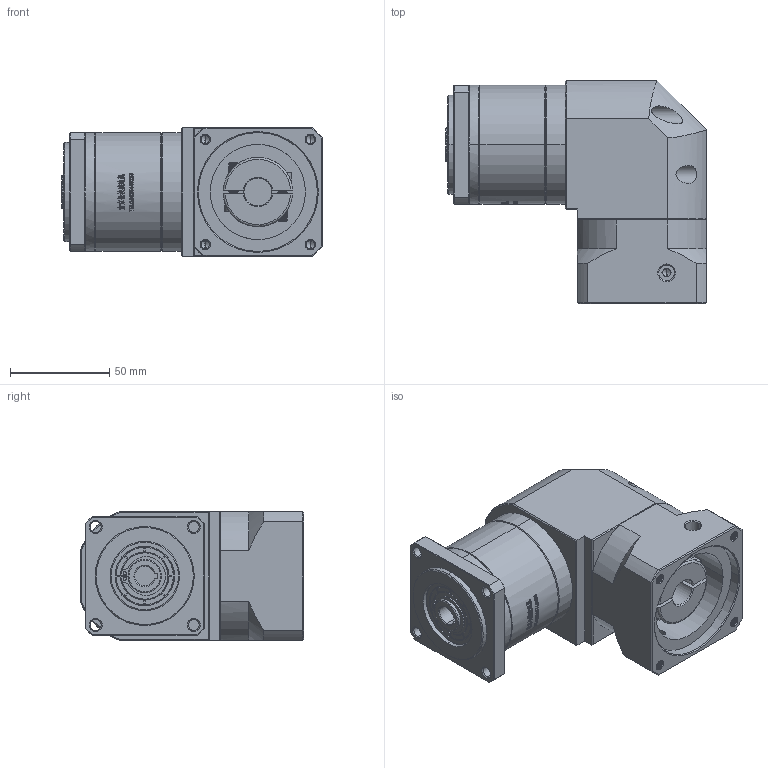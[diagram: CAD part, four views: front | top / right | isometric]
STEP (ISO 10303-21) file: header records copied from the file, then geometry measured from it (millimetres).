
FILE_DESCRIPTION (( 'STEP AP214' ), '1' );
FILE_NAME ('ZFR60-K10-L1-14-60-75-M5.STEP', '2022-04-20T09:05:26', ( '' ), ( 'Microsoft' ), 'SwSTEP 2.0', 'SolidWorks 2016', '' );
FILE_SCHEMA (( 'AUTOMOTIVE_DESIGN' ));
Length unit declared in the file: millimetre
Products named in the file (1): ZFR60-K10-L1-14-60-75-M5
Bounding box: 131.5 x 112.7 x 65 mm (x, y, z)
Volume: 544623.5 mm3; surface area: 79053.6 mm2
Topology: 5 solids, 6 shells, 2627 faces, 7173 edges, 4682 vertices
Faces by surface type: plane 1390, bspline 572, cylinder 359, cone 282, torus 24
Entity records: 142870 total; most frequent: CARTESIAN_POINT 52746, ORIENTED_EDGE 14306, DIRECTION 10340, EDGE_CURVE 7153, VERTEX_POINT 4682, LINE 4338, VECTOR 4338, AXIS2_PLACEMENT_3D 3001
